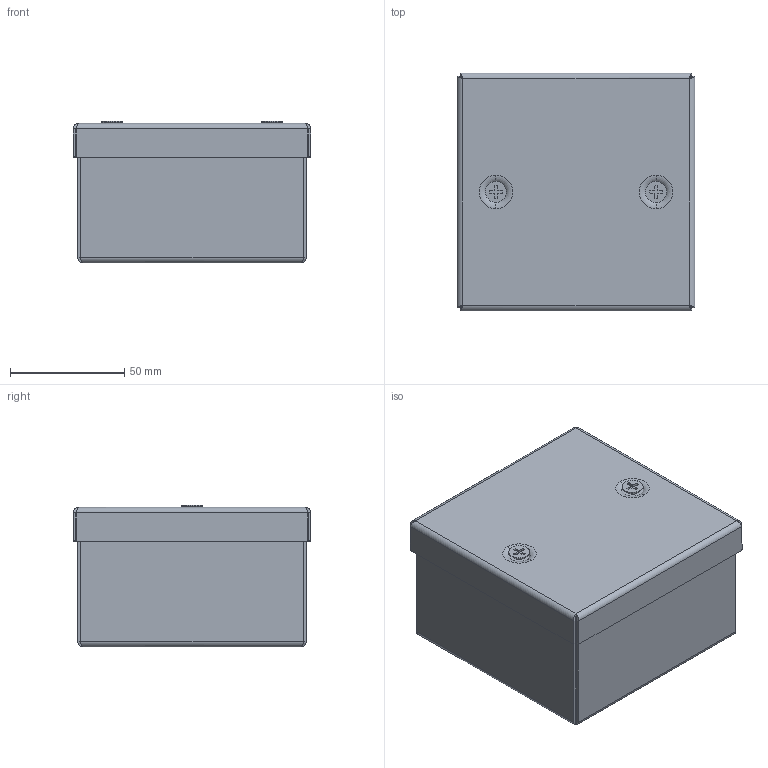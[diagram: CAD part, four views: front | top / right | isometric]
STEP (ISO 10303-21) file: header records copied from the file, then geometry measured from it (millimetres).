
FILE_DESCRIPTION (( 'STEP AP203' ), '1' );
FILE_NAME ('BSS 10.10.06-L Êîðîáêà êëåììíàÿ èç íåðæ. ñòàëè.STEP', '2025-05-06T09:48:28', ( '' ), ( '' ), 'SwSTEP 2.0', 'SolidWorks 2019', '' );
FILE_SCHEMA (( 'CONFIG_CONTROL_DESIGN' ));
Length unit declared in the file: millimetre
Products named in the file (9): Âèíò ñ ïîòàéíîé ãîëîâêîé DIN 965_Œ5å16 ªà¥áâ; Øïèëüêà Ì6õ13; BSS X.Y.06.01.001-L 暑痫篑 觌屐祉_BSS 10.10.06.01.001-L; BSS X.Y.06.01.000-L 蚜 暑痫篑 觌屐祉 疋囵眍開BSS 10.10.06.01.000-L; BSS X.Y.06.02.001-L Êðûøêà êëåììíàÿ_BSS 10.10.06.02.001-L; Ãàéêà çàêëàäíàÿ êâàäðàòíàÿ îö. Ì5_ƒ ©ª  § ª« ¤­ ï ª¢ ¤à â­ ï ®æ. Œ5 1,7-2,7; ﾘ琺矜 5 ﾃﾎﾑﾒ 11371-78_Washer DIN 126 - 5.5; BSS 10.10.06-L Êîðîáêà êëåììíàÿ èç íåðæ. ñòàëè; BSS X.Y.06.02.000-L ÑÁ Êðûøêà êëåììíàÿ_BSS 10.10.06.02.000-L
Assembly tree (12 placements, depth 3):
  BSS 10.10.06-L Êîðîáêà êëåììíàÿ èç íåðæ. ñòàëè
    BSS X.Y.06.01.000-L 蚜 暑痫篑 觌屐祉 疋囵眍開BSS 10.10.06.01.000-L
      BSS X.Y.06.01.001-L 暑痫篑 觌屐祉_BSS 10.10.06.01.001-L
      Øïèëüêà Ì6õ13
    BSS X.Y.06.02.000-L ÑÁ Êðûøêà êëåììíàÿ_BSS 10.10.06.02.000-L
      BSS X.Y.06.02.001-L Êðûøêà êëåììíàÿ_BSS 10.10.06.02.001-L
      Øïèëüêà Ì6õ13
    Âèíò ñ ïîòàéíîé ãîëîâêîé DIN 965_Œ5å16 ªà¥áâ  x2
    ﾘ琺矜 5 ﾃﾎﾑﾒ 11371-78_Washer DIN 126 - 5.5  x2
    Ãàéêà çàêëàäíàÿ êâàäðàòíàÿ îö. Ì5_ƒ ©ª  § ª« ¤­ ï ª¢ ¤à â­ ï ®æ. Œ5 1,7-2,7  x2
Bounding box: 104 x 104 x 62 mm (x, y, z)
Volume: 75772.4 mm3; surface area: 108093 mm2
Topology: 12 solids, 12 shells, 649 faces, 1535 edges, 917 vertices
Faces by surface type: plane 355, cylinder 222, bspline 32, cone 28, torus 12
Entity records: 18283 total; most frequent: CARTESIAN_POINT 7587, ORIENTED_EDGE 2024, DIRECTION 1996, EDGE_CURVE 1012, AXIS2_PLACEMENT_3D 677, LINE 642, VECTOR 642, VERTEX_POINT 604
